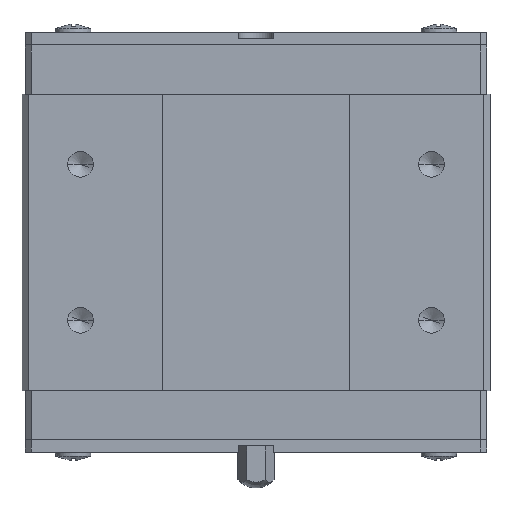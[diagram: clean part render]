
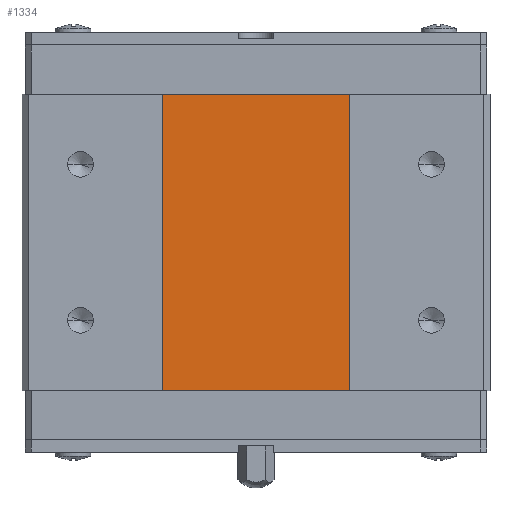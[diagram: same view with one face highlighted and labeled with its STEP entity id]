
A CAD part, top view. The second image highlights one B-rep face of the part: STEP entity #1334.
In plain terms, the highlighted planar face has unit normal (0, 0, 1).
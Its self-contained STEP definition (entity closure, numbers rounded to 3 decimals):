
#1334=ADVANCED_FACE('',(#3779),#3780,.T.);
#1584=VERTEX_POINT('',#4060);
#1754=EDGE_CURVE('',#3394,#2968,#4243,.T.);
#2266=EDGE_CURVE('',#2968,#1584,#4809,.T.);
#2488=EDGE_CURVE('',#2530,#3394,#5051,.T.);
#2530=VERTEX_POINT('',#5096);
#2968=VERTEX_POINT('',#5570);
#3236=EDGE_CURVE('',#1584,#2530,#5873,.T.);
#3394=VERTEX_POINT('',#6048);
#3779=FACE_OUTER_BOUND('',#6526,.T.);
#3780=PLANE('',#6527);
#4060=CARTESIAN_POINT('',(12.0,45.9,15.75));
#4243=LINE('',#7254,#7255);
#4809=LINE('',#8081,#8082);
#5051=LINE('',#8506,#8507);
#5096=CARTESIAN_POINT('',(12.0,7.9,15.75));
#5570=CARTESIAN_POINT('',(-12.0,45.9,15.75));
#5873=LINE('',#9823,#9824);
#6048=CARTESIAN_POINT('',(-12.0,7.9,15.75));
#6526=EDGE_LOOP('',(#10623,#10624,#10625,#10626));
#6527=AXIS2_PLACEMENT_3D('',#10627,#10628,#10629);
#7254=CARTESIAN_POINT('',(-12.0,26.9,15.75));
#7255=VECTOR('',#11113,1.0);
#8081=CARTESIAN_POINT('',(0.,45.9,15.75));
#8082=VECTOR('',#11759,1.0);
#8506=CARTESIAN_POINT('',(0.0,7.9,15.75));
#8507=VECTOR('',#12013,1.0);
#9823=CARTESIAN_POINT('',(12.0,26.9,15.75));
#9824=VECTOR('',#12926,1.0);
#10623=ORIENTED_EDGE('',*,*,#3236,.F.);
#10624=ORIENTED_EDGE('',*,*,#2266,.F.);
#10625=ORIENTED_EDGE('',*,*,#1754,.F.);
#10626=ORIENTED_EDGE('',*,*,#2488,.F.);
#10627=CARTESIAN_POINT('',(0.0,26.9,15.75));
#10628=DIRECTION('',(0.0,0.0,1.0));
#10629=DIRECTION('',(1.0,0.0,0.0));
#11113=DIRECTION('',(0.0,1.0,0.0));
#11759=DIRECTION('',(1.0,0.0,-0.0));
#12013=DIRECTION('',(-1.0,0.0,0.0));
#12926=DIRECTION('',(0.0,-1.0,0.0));
